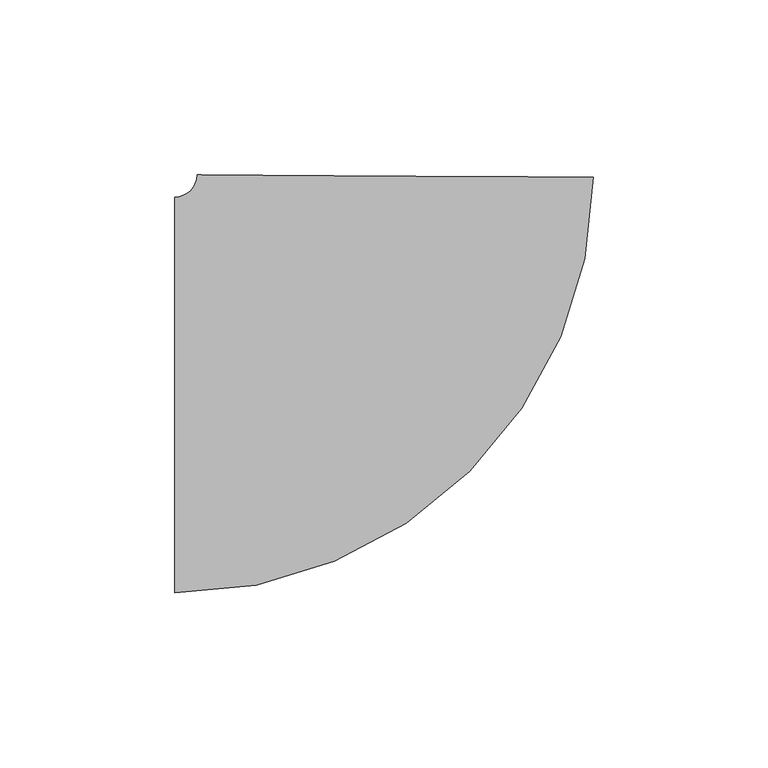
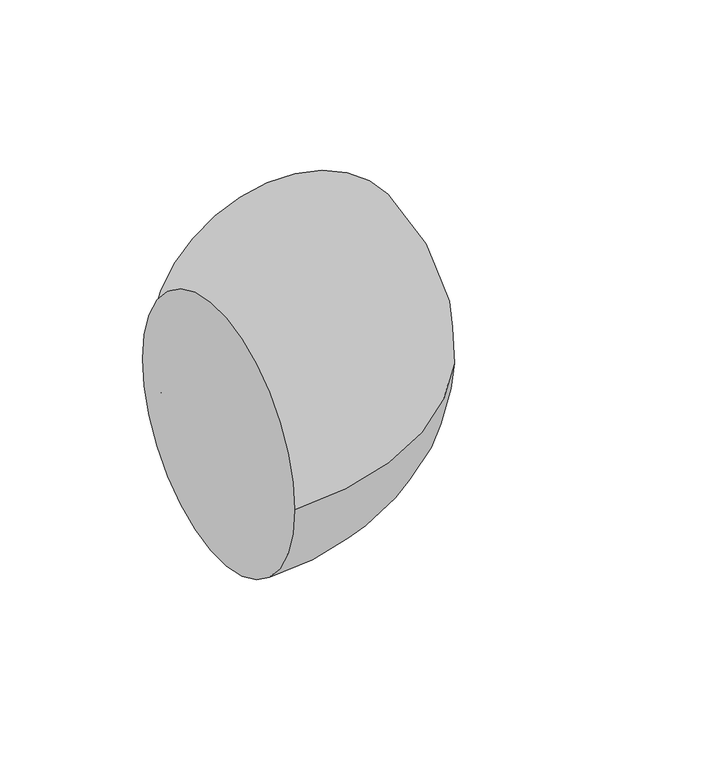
"""IFC4 building model written with IfcOpenShell, lengths in millimetres: pipe fitting geometry, M_Codo - Genérico : Estándar."""

from ifc_helpers import new_model, si_unit, point, frame, origin, place, context, project, spatial, circle_curve, ellipse_curve, trimmed, source, transform, mapped, element, save
from ifc_brep_helpers import plane_surface, revolved_surface, advanced_brep


def pipe_fitting_64523cdd(model_context):
    return source(origin(), model_context, "Body", "AdvancedBrep", [
        advanced_brep(
        [(-62.5545058, -56.5875, 0.0), (-62.5545058, 56.5875, 0.0), (56.9682676, 62.2079403, 0.0), (-56.2046241, 62.8987407, 0.0)],
        [
            (0, 1, circle_curve(frame((-62.5545058, 0.0, 0.0), z_axis=(-1.0, 0.0, 0.0), x_axis=(0.0, 1.0, 0.0)), 56.5875)),
            (1, 0, circle_curve(frame((-62.5545058, 0.0, 0.0), z_axis=(-1.0, 0.0, 0.0), x_axis=(0.0, 1.0, 0.0)), 56.5875)),
            (2, 3, circle_curve(frame((0.3818218, 62.5533405, 0.0), z_axis=(0.006103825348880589, 0.9999813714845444, 0.0), x_axis=(-0.9999813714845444, 0.006103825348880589, 0.0)), 56.5875)),
            (3, 2, circle_curve(frame((0.3818218, 62.5533405, 0.0), z_axis=(0.006103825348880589, 0.9999813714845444, 0.0), x_axis=(-0.9999813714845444, 0.006103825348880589, 0.0)), 56.5875)),
            (3, 1, circle_curve(frame((-62.5545058, 62.9375, 0.0), z_axis=(0.0, 0.0, -1.0), x_axis=(0.0, -1.0, 0.0)), 6.35)),
            (0, 2, circle_curve(frame((-62.5545058, 62.9375, 0.0), z_axis=(0.0, 0.0, 1.0), x_axis=(0.0, -1.0, 0.0)), 119.525)),
        ],
        [
            plane_surface(frame((-62.5545058, 0.0, 0.0), z_axis=(-1.0, 0.0, 0.0), x_axis=(0.0, 0.0, 1.0))),
            plane_surface(frame((0.3818218, 62.5533405, 0.0), z_axis=(0.006103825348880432, 0.9999813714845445, 0.0), x_axis=(0.0, 0.0, 1.0))),
            revolved_surface(trimmed(ellipse_curve(frame((-62.5545058, 0.0, 0.0), z_axis=(-1.0, 0.0, 0.0), x_axis=(0.0, 1.0, 0.0)), 56.5875, 56.5875), [point((-62.5545058, -56.5875, 0.0))], [point((-62.5545058, 56.5875, 0.0))], True, "CARTESIAN"), (-62.5545058, 62.9375, 0.0), (0.0, 0.0, 1.0)),
            revolved_surface(trimmed(ellipse_curve(frame((-62.5545058, 0.0, 0.0), z_axis=(-1.0, 0.0, 0.0), x_axis=(0.0, 1.0, 0.0)), 56.5875, 56.5875), [point((-62.5545058, 56.5875, 0.0))], [point((-62.5545058, -56.5875, 0.0))], True, "CARTESIAN"), (-62.5545058, 62.9375, 0.0), (0.0, 0.0, 1.0)),
        ],
        [
            (0, [[1, 2]]),
            (1, [[3, 4]]),
            (2, [[5, -1, 6, -4]]),
            (3, [[-6, -2, -5, -3]]),
        ],
    ),
    ])


if __name__ == "__main__":
    model = new_model("IFC4")
    model_context = context("Model", 3, world=origin())
    ifc_project = project(units=[si_unit("LENGTHUNIT", "METRE", prefix="MILLI")], contexts=[model_context])
    site = spatial("IfcSite", under=ifc_project)
    building = spatial("IfcBuilding", under=site)
    placement = place(None, origin())
    pipe_fitting_shape = pipe_fitting_64523cdd(model_context)
    element("IfcPipeFitting", 1, ObjectType="M_Codo - Genérico : Estándar", at=placement, inside=building, context=model_context, shape_type="MappedRepresentation", body=[
        mapped(pipe_fitting_shape, transform((0.0, 0.0, 0.0), x_axis=(1.0, 0.0, 0.0), y_axis=(0.0, 1.0, 0.0), z_axis=(0.0, 0.0, 1.0))),
    ])
    save(model, "model.ifc")
